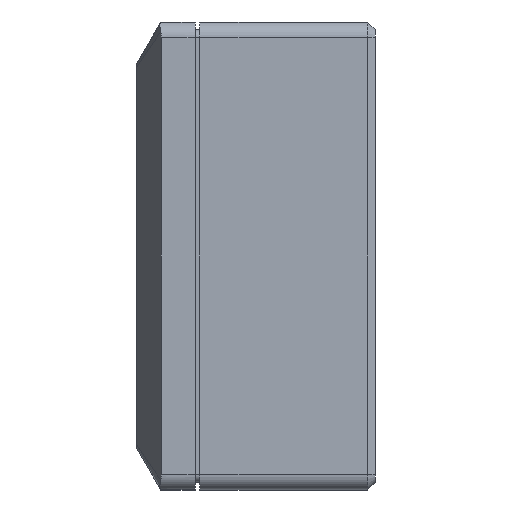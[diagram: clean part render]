
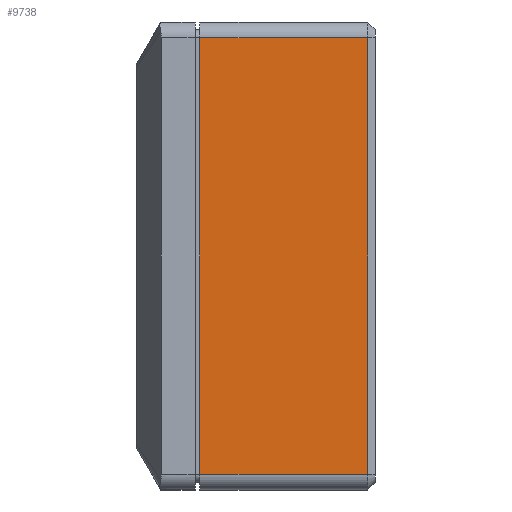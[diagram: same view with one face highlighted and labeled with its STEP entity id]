
A CAD part, left-side view. The second image highlights one B-rep face of the part: STEP entity #9738.
In plain terms, the highlighted planar face has unit normal (-1, 0, 0).
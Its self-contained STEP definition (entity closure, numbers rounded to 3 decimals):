
#87 = DIRECTION ( 'NONE',  ( 0., 0., 1. ) ) ;
#2252 = ORIENTED_EDGE ( 'NONE', *, *, #7659, .T. ) ;
#3099 = CARTESIAN_POINT ( 'NONE',  ( -65.5, 22.5, -28. ) ) ;
#3800 = DIRECTION ( 'NONE',  ( 0., 0., 1. ) ) ;
#4660 = EDGE_LOOP ( 'NONE', ( #12524, #2252, #16447, #20712 ) ) ;
#6176 = CARTESIAN_POINT ( 'NONE',  ( -65.5, 22.5, 28. ) ) ;
#6891 = PLANE ( 'NONE',  #20289 ) ;
#6960 = DIRECTION ( 'NONE',  ( 1., 0., 0. ) ) ;
#7659 = EDGE_CURVE ( 'NONE', #16058, #17961, #13956, .T. ) ;
#8953 = FACE_OUTER_BOUND ( 'NONE', #4660, .T. ) ;
#9738 = ADVANCED_FACE ( 'NONE', ( #8953 ), #6891, .F. ) ;
#9904 = DIRECTION ( 'NONE',  ( 0., -1., 0. ) ) ;
#10191 = EDGE_CURVE ( 'NONE', #10203, #16058, #10236, .T. ) ;
#10201 = CARTESIAN_POINT ( 'NONE',  ( -65.5, 1., -30. ) ) ;
#10203 = VERTEX_POINT ( 'NONE', #3099 ) ;
#10236 = LINE ( 'NONE', #13230, #13674 ) ;
#11398 = VECTOR ( 'NONE', #20980, 1000. ) ;
#11912 = LINE ( 'NONE', #12558, #11398 ) ;
#12225 = CARTESIAN_POINT ( 'NONE',  ( -65.5, 22.5, -30. ) ) ;
#12316 = EDGE_CURVE ( 'NONE', #10203, #15093, #20886, .T. ) ;
#12524 = ORIENTED_EDGE ( 'NONE', *, *, #10191, .T. ) ;
#12558 = CARTESIAN_POINT ( 'NONE',  ( -65.5, 22.5, 28. ) ) ;
#12975 = VECTOR ( 'NONE', #3800, 1000. ) ;
#13230 = CARTESIAN_POINT ( 'NONE',  ( -65.5, 22.5, -28. ) ) ;
#13674 = VECTOR ( 'NONE', #9904, 1000. ) ;
#13956 = LINE ( 'NONE', #10201, #21340 ) ;
#15093 = VERTEX_POINT ( 'NONE', #6176 ) ;
#15844 = CARTESIAN_POINT ( 'NONE',  ( -65.5, 1., -28. ) ) ;
#16058 = VERTEX_POINT ( 'NONE', #15844 ) ;
#16447 = ORIENTED_EDGE ( 'NONE', *, *, #17656, .T. ) ;
#17062 = CARTESIAN_POINT ( 'NONE',  ( -65.5, 22.5, -30. ) ) ;
#17656 = EDGE_CURVE ( 'NONE', #17961, #15093, #11912, .T. ) ;
#17961 = VERTEX_POINT ( 'NONE', #18964 ) ;
#18757 = DIRECTION ( 'NONE',  ( 0., 0., -1. ) ) ;
#18964 = CARTESIAN_POINT ( 'NONE',  ( -65.5, 1., 28. ) ) ;
#20289 = AXIS2_PLACEMENT_3D ( 'NONE', #17062, #6960, #18757 ) ;
#20712 = ORIENTED_EDGE ( 'NONE', *, *, #12316, .F. ) ;
#20886 = LINE ( 'NONE', #12225, #12975 ) ;
#20980 = DIRECTION ( 'NONE',  ( 0., 1., 0. ) ) ;
#21340 = VECTOR ( 'NONE', #87, 1000. ) ;
